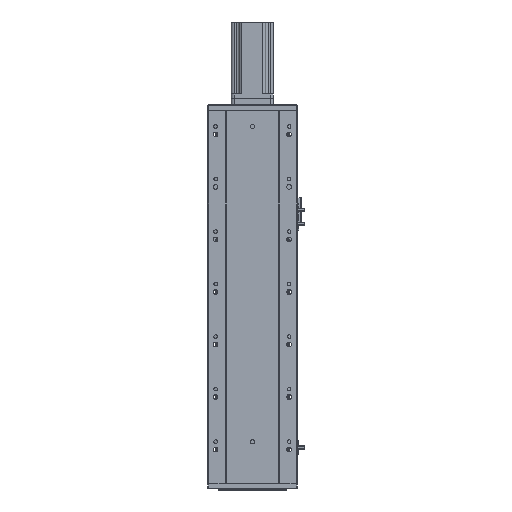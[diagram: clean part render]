
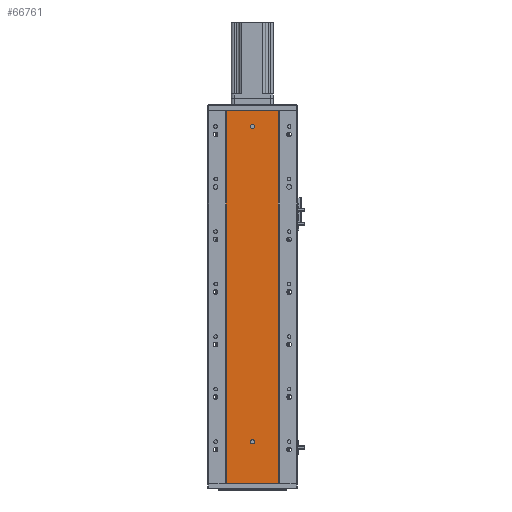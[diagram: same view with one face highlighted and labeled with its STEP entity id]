
A CAD part, front view. The second image highlights one B-rep face of the part: STEP entity #66761.
In plain terms, the highlighted planar face has unit normal (0, -1, 0).
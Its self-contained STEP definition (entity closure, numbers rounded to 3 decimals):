
#108 = CIRCLE ( 'NONE', #51952, 4. ) ;
#4177 = CARTESIAN_POINT ( 'NONE',  ( 185.97, 79.476, 473.333 ) ) ;
#4419 = CARTESIAN_POINT ( 'NONE',  ( 185.97, 79.476, 236.667 ) ) ;
#4829 = ORIENTED_EDGE ( 'NONE', *, *, #42831, .T. ) ;
#4934 = VERTEX_POINT ( 'NONE', #23515 ) ;
#6529 = PLANE ( 'NONE',  #53871 ) ;
#6787 = LINE ( 'NONE', #68112, #21131 ) ;
#6868 = DIRECTION ( 'NONE',  ( 0., 0., -1. ) ) ;
#8380 = B_SPLINE_CURVE_WITH_KNOTS ( 'NONE', 3,
 ( #20413, #26357, #36784, #10056 ),
 .UNSPECIFIED., .F., .F.,
 ( 4, 4 ),
 ( 0., 1. ),
 .UNSPECIFIED. ) ;
#8767 = VERTEX_POINT ( 'NONE', #23171 ) ;
#9598 = VERTEX_POINT ( 'NONE', #25691 ) ;
#9941 = EDGE_CURVE ( 'NONE', #58790, #14382, #6787, .T. ) ;
#10018 = EDGE_CURVE ( 'NONE', #14382, #8767, #67307, .T. ) ;
#10056 = CARTESIAN_POINT ( 'NONE',  ( 86.97, 79.476, 0. ) ) ;
#10695 = DIRECTION ( 'NONE',  ( 0., -1., 0. ) ) ;
#11450 = CARTESIAN_POINT ( 'NONE',  ( 0., 79.476, 0. ) ) ;
#11498 = CARTESIAN_POINT ( 'NONE',  ( 136.47, 79.476, 676. ) ) ;
#11933 = ORIENTED_EDGE ( 'NONE', *, *, #41452, .F. ) ;
#12303 = ORIENTED_EDGE ( 'NONE', *, *, #32464, .F. ) ;
#12445 = CARTESIAN_POINT ( 'NONE',  ( 86.97, 79.476, 710. ) ) ;
#14382 = VERTEX_POINT ( 'NONE', #31371 ) ;
#16241 = CARTESIAN_POINT ( 'NONE',  ( 136.47, 79.476, 680. ) ) ;
#16470 = DIRECTION ( 'NONE',  ( 0., -1., 0. ) ) ;
#16505 = CARTESIAN_POINT ( 'NONE',  ( 136.47, 79.476, 76. ) ) ;
#17515 = ORIENTED_EDGE ( 'NONE', *, *, #61552, .F. ) ;
#20413 = CARTESIAN_POINT ( 'NONE',  ( 86.97, 79.476, 710. ) ) ;
#20521 = CIRCLE ( 'NONE', #24645, 4. ) ;
#20723 = DIRECTION ( 'NONE',  ( 0., -1., 0. ) ) ;
#21131 = VECTOR ( 'NONE', #35815, 1000. ) ;
#21418 = AXIS2_PLACEMENT_3D ( 'NONE', #16241, #16470, #32994 ) ;
#23029 = DIRECTION ( 'NONE',  ( 0., 0., 1. ) ) ;
#23171 = CARTESIAN_POINT ( 'NONE',  ( 185.97, 79.476, 0. ) ) ;
#23358 = LINE ( 'NONE', #11450, #52121 ) ;
#23515 = CARTESIAN_POINT ( 'NONE',  ( 86.97, 79.476, 0. ) ) ;
#24645 = AXIS2_PLACEMENT_3D ( 'NONE', #37917, #10695, #48492 ) ;
#24659 = EDGE_CURVE ( 'NONE', #58790, #4934, #8380, .T. ) ;
#24691 = EDGE_LOOP ( 'NONE', ( #4829, #60066, #66051, #43860 ) ) ;
#24753 = CIRCLE ( 'NONE', #60347, 4. ) ;
#25691 = CARTESIAN_POINT ( 'NONE',  ( 136.47, 79.476, 84. ) ) ;
#25933 = EDGE_LOOP ( 'NONE', ( #57810, #17515 ) ) ;
#26357 = CARTESIAN_POINT ( 'NONE',  ( 86.97, 79.476, 473.333 ) ) ;
#28367 = VERTEX_POINT ( 'NONE', #16505 ) ;
#30677 = FACE_OUTER_BOUND ( 'NONE', #24691, .T. ) ;
#31371 = CARTESIAN_POINT ( 'NONE',  ( 185.97, 79.476, 710. ) ) ;
#31756 = CARTESIAN_POINT ( 'NONE',  ( 185.97, 79.476, 710. ) ) ;
#31834 = EDGE_LOOP ( 'NONE', ( #11933, #12303 ) ) ;
#32464 = EDGE_CURVE ( 'NONE', #48256, #66774, #20521, .T. ) ;
#32671 = CARTESIAN_POINT ( 'NONE',  ( 136.47, 79.476, 684. ) ) ;
#32994 = DIRECTION ( 'NONE',  ( 0., 0., -1. ) ) ;
#33172 = FACE_BOUND ( 'NONE', #25933, .T. ) ;
#35815 = DIRECTION ( 'NONE',  ( 1., 0., 0. ) ) ;
#36784 = CARTESIAN_POINT ( 'NONE',  ( 86.97, 79.476, 236.667 ) ) ;
#37917 = CARTESIAN_POINT ( 'NONE',  ( 136.47, 79.476, 680. ) ) ;
#38329 = FACE_BOUND ( 'NONE', #31834, .T. ) ;
#39264 = CARTESIAN_POINT ( 'NONE',  ( 136.47, 79.476, 80. ) ) ;
#41452 = EDGE_CURVE ( 'NONE', #66774, #48256, #63298, .T. ) ;
#42489 = DIRECTION ( 'NONE',  ( 0., 0., -1. ) ) ;
#42831 = EDGE_CURVE ( 'NONE', #4934, #8767, #23358, .T. ) ;
#43860 = ORIENTED_EDGE ( 'NONE', *, *, #24659, .T. ) ;
#44306 = CARTESIAN_POINT ( 'NONE',  ( 0., 79.476, 710. ) ) ;
#44617 = DIRECTION ( 'NONE',  ( 0., -1., 0. ) ) ;
#47907 = CARTESIAN_POINT ( 'NONE',  ( 136.47, 79.476, 80. ) ) ;
#48256 = VERTEX_POINT ( 'NONE', #32671 ) ;
#48492 = DIRECTION ( 'NONE',  ( 0., 0., -1. ) ) ;
#51952 = AXIS2_PLACEMENT_3D ( 'NONE', #39264, #44617, #6868 ) ;
#52121 = VECTOR ( 'NONE', #65528, 1000. ) ;
#53871 = AXIS2_PLACEMENT_3D ( 'NONE', #44306, #60123, #23029 ) ;
#54398 = EDGE_CURVE ( 'NONE', #28367, #9598, #108, .T. ) ;
#57810 = ORIENTED_EDGE ( 'NONE', *, *, #54398, .F. ) ;
#58790 = VERTEX_POINT ( 'NONE', #12445 ) ;
#60066 = ORIENTED_EDGE ( 'NONE', *, *, #10018, .F. ) ;
#60123 = DIRECTION ( 'NONE',  ( 0., 1., 0. ) ) ;
#60347 = AXIS2_PLACEMENT_3D ( 'NONE', #47907, #20723, #42489 ) ;
#61552 = EDGE_CURVE ( 'NONE', #9598, #28367, #24753, .T. ) ;
#63298 = CIRCLE ( 'NONE', #21418, 4. ) ;
#65528 = DIRECTION ( 'NONE',  ( 1., 0., 0. ) ) ;
#66051 = ORIENTED_EDGE ( 'NONE', *, *, #9941, .F. ) ;
#66761 = ADVANCED_FACE ( 'NONE', ( #38329, #33172, #30677 ), #6529, .F. ) ;
#66774 = VERTEX_POINT ( 'NONE', #11498 ) ;
#67307 = B_SPLINE_CURVE_WITH_KNOTS ( 'NONE', 3,
 ( #31756, #4177, #4419, #68817 ),
 .UNSPECIFIED., .F., .F.,
 ( 4, 4 ),
 ( 0., 1. ),
 .UNSPECIFIED. ) ;
#68112 = CARTESIAN_POINT ( 'NONE',  ( 0., 79.476, 710. ) ) ;
#68817 = CARTESIAN_POINT ( 'NONE',  ( 185.97, 79.476, 0. ) ) ;
